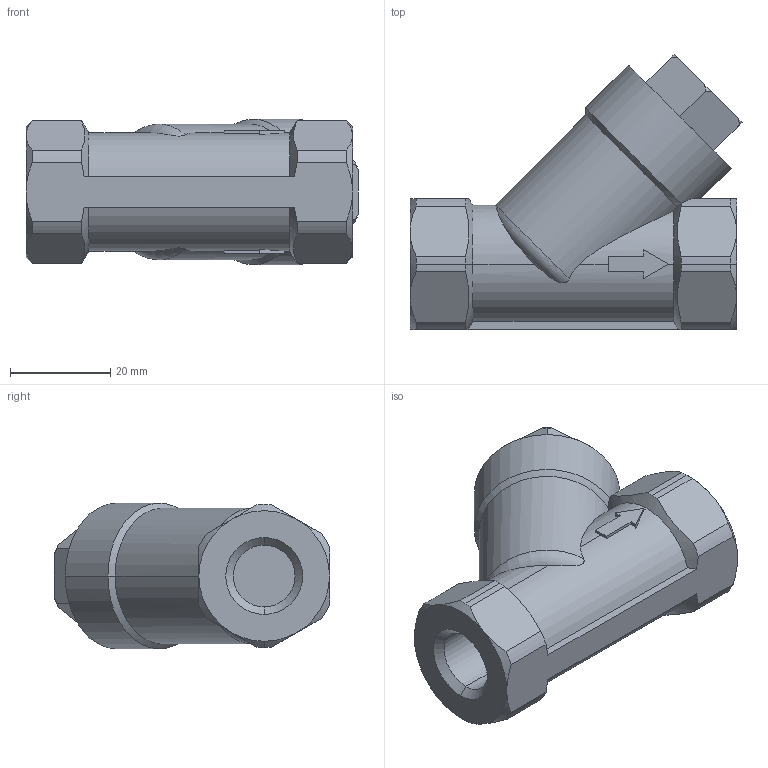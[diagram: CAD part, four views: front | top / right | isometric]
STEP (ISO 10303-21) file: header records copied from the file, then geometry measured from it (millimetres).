
FILE_DESCRIPTION (( 'STEP AP203' ), '1' );
FILE_NAME ('10.000.007.0.STEP', '2018-12-07T10:38:34', ( 'dell2' ), ( 'Microsoft' ), 'SwSTEP 2.0', 'SolidWorks 2017', '' );
FILE_SCHEMA (( 'CONFIG_CONTROL_DESIGN' ));
Length unit declared in the file: millimetre
Products named in the file (1): 10.000.007.0
Bounding box: 66.08 x 54.74 x 29 mm (x, y, z)
Volume: 48881.6 mm3; surface area: 10351.6 mm2
Topology: 1 solids, 1 shells, 102 faces, 264 edges, 167 vertices
Faces by surface type: plane 41, cone 32, cylinder 27, torus 2
Entity records: 3558 total; most frequent: CARTESIAN_POINT 1073, ORIENTED_EDGE 528, DIRECTION 481, EDGE_CURVE 264, AXIS2_PLACEMENT_3D 189, VERTEX_POINT 167, EDGE_LOOP 105, VECTOR 103
